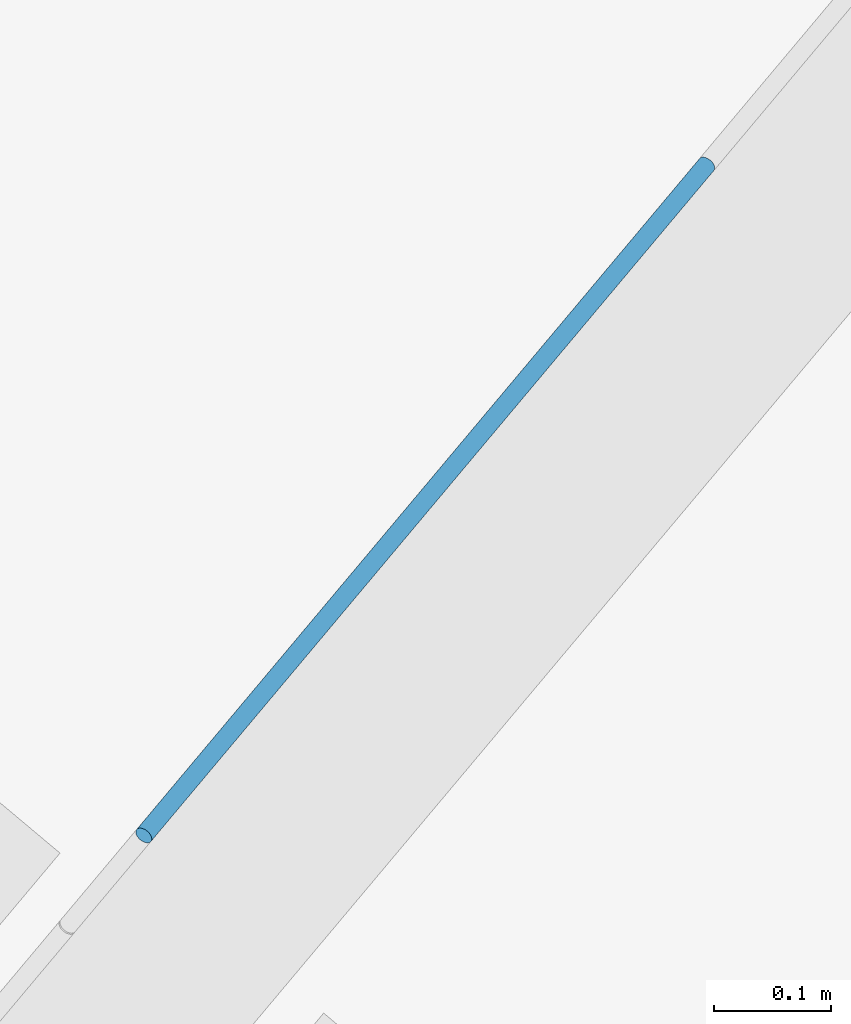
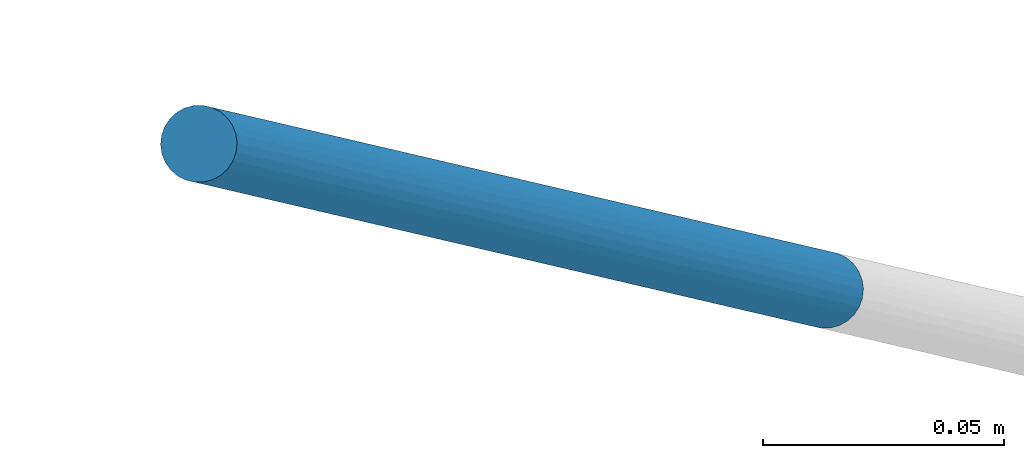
# One storey, part 5 of 14: 1 beam.
"""IFC2X3 building model written with IfcOpenShell, lengths in millimetres."""

import ifcopenshell
import ifcopenshell.guid

model = None  # the IFC model being written
_history = None  # IfcOwnerHistory: only IFC2X3 demands one
_inside = {}  # id of a spatial element -> (the spatial element, [elements in it])
_under = {}  # id of a project, library or spatial element -> (it, [spatial elements below it])
_declared = {}  # id of a project -> (the project, [libraries it declares])
_typed = {}  # id of a type object -> (the type object, [elements of that type])
_made_of = {}  # id of a material, layer set ... -> (it, [elements and type objects made of it])


def new_model(schema):
    """Start an empty IFC model of exactly this schema.

    Asked for "IFC4X3", IfcOpenShell would pick the latest addendum, in which some entities
    have other attributes; the version numbers below select the first issue.
    IFC2X3 requires an IfcOwnerHistory on every rooted entity: one is made here for all.
    """
    global model, _history
    if schema == "IFC4X3":
        model = ifcopenshell.file(schema_version=(4, 3, 0, 0))
    else:
        model = ifcopenshell.file(schema=schema)
    _inside.clear()
    _under.clear()
    _declared.clear()
    _typed.clear()
    _made_of.clear()
    _history = None
    if model.schema == "IFC2X3":
        org = make("IfcOrganization", Name="unknown")
        user = make(
            "IfcPersonAndOrganization",
            ThePerson=make("IfcPerson", FamilyName="unknown"),
            TheOrganization=org,
        )
        app = make(
            "IfcApplication",
            ApplicationDeveloper=org,
            Version="unknown",
            ApplicationFullName="unknown",
            ApplicationIdentifier="unknown",
        )
        _history = make(
            "IfcOwnerHistory",
            OwningUser=user,
            OwningApplication=app,
            ChangeAction="ADDED",
            CreationDate=0,
        )
    return model


def make(cls, **values):
    """One entity of the class cls with the attributes given. An attribute that is None is left unset."""
    return model.create_entity(
        cls, **{name: value for name, value in values.items() if value is not None}
    )


def entity(cls, *values):
    """Any entity or typed value of the class cls, its attributes in the order of the schema. None: left unset."""
    e = model.create_entity(cls)
    for i, value in enumerate(values):
        if value is not None:
            e[i] = value
    return e


def rooted(cls, **values):
    """An entity with a GlobalId (a new one), such as an element, a storey or a relation."""
    return make(cls, GlobalId=ifcopenshell.guid.new(), OwnerHistory=_history, **values)


def si_unit(unit_type, name, prefix=None):
    """IfcSIUnit, for example si_unit("LENGTHUNIT", "METRE", prefix="MILLI")."""
    return make("IfcSIUnit", UnitType=unit_type, Prefix=prefix, Name=name)


def converted_unit(unit_type, name, factor, base, dimensions=None, offset=None):
    """IfcConversionBasedUnit, such as the inch: factor (a typed value) times the base unit."""
    return make(
        "IfcConversionBasedUnit"
        if offset is None
        else "IfcConversionBasedUnitWithOffset",
        ConversionOffset=offset,
        Dimensions=None
        if dimensions is None
        else entity("IfcDimensionalExponents", *dimensions),
        UnitType=unit_type,
        Name=name,
        ConversionFactor=make(
            "IfcMeasureWithUnit", ValueComponent=factor, UnitComponent=base
        ),
    )


def derived_unit(unit_type, elements):
    """IfcDerivedUnit: a product of units, each with its exponent."""
    return make(
        "IfcDerivedUnit",
        Elements=[
            make("IfcDerivedUnitElement", Unit=unit, Exponent=power)
            for unit, power in elements
        ],
        UnitType=unit_type,
    )


def assignment(units):
    """IfcUnitAssignment: the units of a project."""
    return None if units is None else make("IfcUnitAssignment", Units=units)


def point(xyz):
    """IfcCartesianPoint."""
    return None if xyz is None else make("IfcCartesianPoint", Coordinates=xyz)


def direction(xyz):
    """IfcDirection."""
    return None if xyz is None else make("IfcDirection", DirectionRatios=xyz)


def frame(location, z_axis=None, x_axis=None):
    """IfcAxis2Placement3D, a coordinate frame: its origin and axes. An axis left out is left unset."""
    return make(
        "IfcAxis2Placement3D",
        Location=point(location),
        Axis=direction(z_axis),
        RefDirection=direction(x_axis),
    )


def frame_2d(location, x_axis=None):
    """IfcAxis2Placement2D, a coordinate frame in the plane: its origin and x axis."""
    return make(
        "IfcAxis2Placement2D", Location=point(location), RefDirection=direction(x_axis)
    )


def origin():
    """The frame at (0, 0, 0) with its axes left unset."""
    return frame((0.0, 0.0, 0.0))


def place(relative_to, where):
    """IfcLocalPlacement: puts the frame where relative to a parent placement (None: the world)."""
    return make(
        "IfcLocalPlacement", PlacementRelTo=relative_to, RelativePlacement=where
    )


def context(
    kind, dimensions, precision=None, world=None, true_north=None, identifier=None
):
    """IfcGeometricRepresentationContext, for example the 3D "Model" context."""
    return make(
        "IfcGeometricRepresentationContext",
        ContextIdentifier=identifier,
        ContextType=kind,
        CoordinateSpaceDimension=dimensions,
        Precision=precision,
        WorldCoordinateSystem=world,
        TrueNorth=true_north,
    )


def subcontext(parent, identifier, kind, view, scale=None):
    """IfcGeometricRepresentationSubContext, for example "Body" below "Model"."""
    return make(
        "IfcGeometricRepresentationSubContext",
        ContextIdentifier=identifier,
        ContextType=kind,
        ParentContext=parent,
        TargetScale=scale,
        TargetView=view,
    )


def project(units=None, contexts=None):
    """IfcProject with its units and contexts."""
    return rooted(
        "IfcProject",
        Name="project",
        RepresentationContexts=contexts,
        UnitsInContext=assignment(units),
    )


def spatial(cls, under=None, at=None, **own):
    """A site, building, storey or space (cls), placed at a placement, below another one or the project."""
    s = rooted(cls, ObjectPlacement=at, **own)
    if under is not None:
        _under.setdefault(under.id(), (under, []))[1].append(s)
    return s


def profile(cls, at=None, kind="AREA", **sizes):
    """A parametric profile (cls). Its sizes go by their IFC names, for example OverallWidth=200.0."""
    return make(cls, ProfileType=kind, Position=at, **sizes)


def circle(**sizes):
    """IfcCircleProfileDef."""
    return profile("IfcCircleProfileDef", **sizes)


def extrude(swept, where, along, depth):
    """IfcExtrudedAreaSolid: the profile swept, set in the frame where, extruded along a direction by depth."""
    return make(
        "IfcExtrudedAreaSolid",
        SweptArea=swept,
        Position=where,
        ExtrudedDirection=direction(along),
        Depth=depth,
    )


def shape(context_of_items, identifier, shape_type, items):
    """IfcShapeRepresentation: the items that make up one representation, for example the "Body"."""
    return make(
        "IfcShapeRepresentation",
        ContextOfItems=context_of_items,
        RepresentationIdentifier=identifier,
        RepresentationType=shape_type,
        Items=items,
    )


def material(Name=None, Category=None):
    """IfcMaterial."""
    return make("IfcMaterial", Name=Name, Category=Category)


def made_of(thing, what):
    """Note that an element or type object is made of a material, layer set ...; save() writes the relation."""
    if what is not None:
        _made_of.setdefault(what.id(), (what, []))[1].append(thing)
    return thing


def type_object(cls, material=None, **own):
    """A type object (cls), such as IfcWallType, which elements share."""
    return made_of(rooted(cls, **own), material)


def element(
    cls,
    number,
    at=None,
    inside=None,
    cuts=None,
    type_object=None,
    material=None,
    context=None,
    identifier="Body",
    shape_type=None,
    held_by="IfcProductDefinitionShape",
    body=None,
    shapes=None,
    **own,
):
    """One element of the class cls, such as IfcWall. Its Tag is "e" and its number.

    at: its placement. inside: the storey or other place that contains it. cuts: it is an
    opening in that element (IfcRelVoidsElement). A single representation is given by context,
    identifier, shape_type and body (its items); several are given by shapes. held_by: the class
    of the entity that holds the representations. save() writes the other relations.
    """
    e = rooted(cls, Tag="e%d" % number, ObjectPlacement=at, **own)
    if body is not None:
        shapes = [shape(context, identifier, shape_type, body)]
    if shapes is not None:
        e.Representation = make(held_by, Representations=shapes)
    if inside is not None:
        _inside.setdefault(inside.id(), (inside, []))[1].append(e)
    if cuts is not None:
        rooted(
            "IfcRelVoidsElement", RelatingBuildingElement=cuts, RelatedOpeningElement=e
        )
    if type_object is not None:
        _typed.setdefault(type_object.id(), (type_object, []))[1].append(e)
    return made_of(e, material)


def aggregate(whole, parts):
    """IfcRelAggregates: a whole, such as a stair, and the parts it consists of."""
    return rooted("IfcRelAggregates", RelatingObject=whole, RelatedObjects=parts)


def save(model, path):
    """Write the relations noted so far, then the file.

    IfcRelAggregates (storeys below a building ...), IfcRelContainedInSpatialStructure (elements
    in a storey), IfcRelDefinesByType, IfcRelAssociatesMaterial and IfcRelDeclares: one each for
    every whole, place, type object, material and project.
    """
    for whole, parts in _under.values():
        aggregate(whole, parts)
    for where, things in _inside.values():
        rooted(
            "IfcRelContainedInSpatialStructure",
            RelatedElements=things,
            RelatingStructure=where,
        )
    for kind, things in _typed.values():
        rooted("IfcRelDefinesByType", RelatedObjects=things, RelatingType=kind)
    for what, things in _made_of.values():
        rooted("IfcRelAssociatesMaterial", RelatedObjects=things, RelatingMaterial=what)
    for by, libraries in _declared.values():
        rooted("IfcRelDeclares", RelatingContext=by, RelatedDefinitions=libraries)
    model.write(path)


model = new_model("IFC2X3")

# Units and contexts
model_context = context("Model", 3, precision=0.01, world=origin(), true_north=direction((6.123031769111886e-17, 1.0)))
body_context = subcontext(model_context, "Body", "Model", "MODEL_VIEW")
ifc_project = project(units=[si_unit("LENGTHUNIT", "METRE", prefix="MILLI"), si_unit("AREAUNIT", "SQUARE_METRE"), si_unit("VOLUMEUNIT", "CUBIC_METRE"), derived_unit("MASSDENSITYUNIT", [(si_unit("MASSUNIT", "GRAM", prefix="KILO"), 1), (si_unit("LENGTHUNIT", "METRE"), -3)]), si_unit("MASSUNIT", "GRAM", prefix="KILO"), converted_unit("PLANEANGLEUNIT", "DEGREE", entity("IfcPlaneAngleMeasure", 0.017453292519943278), si_unit("PLANEANGLEUNIT", "RADIAN"), dimensions=[0, 0, 0, 0, 0, 0, 0])], contexts=[model_context])

# Site, building, storey
site_placement = place(None, origin())
site = spatial("IfcSite", under=ifc_project, at=site_placement, Name="Default", CompositionType="ELEMENT")
building_placement = place(site_placement, origin())
building = spatial("IfcBuilding", under=site, at=building_placement, Name="AT constructie", CompositionType="ELEMENT")
storey_placement = place(building_placement, frame((0.0, 0.0, 12043.0)))
storey = spatial("IfcBuildingStorey", under=building, at=storey_placement, Name="03 derde verdieping", CompositionType="ELEMENT", Elevation=12043.0)

# Beam
ifc_material = material(Name="h2_staal_S355")
beam_type = type_object("IfcBeamType", Name="staaf_gen_ø16", PredefinedType="NOTDEFINED")
beam_placement = place(storey_placement, frame((28699.801039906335, 24625.491227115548, -315.6278624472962), z_axis=(0.38202508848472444, 0.45527977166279, 0.8042245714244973), x_axis=(0.516945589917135, 0.616071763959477, -0.5943255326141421)))
element("IfcBeam", 1, at=beam_placement, inside=storey, type_object=beam_type, material=ifc_material, Name="NLRS_28_SF_LIB_balk staaf_gen_AT:staaf_gen_ø16", ObjectType="NLRS_28_SF_LIB_balk staaf_gen_AT:staaf_gen_ø16", context=body_context, shape_type="SweptSolid", body=[
    extrude(circle(Radius=7.999999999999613, at=frame_2d((1.7417367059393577e-12, 9.112858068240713e-26), x_axis=(1.0, 0.0))), frame((0.0, 8.0, 0.0), z_axis=(1.0, 0.0, 0.0), x_axis=(0.0, 0.0, -1.0)), (0.0, 0.0, 1.0), 928.797633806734),
])

save(model, "model.ifc")
